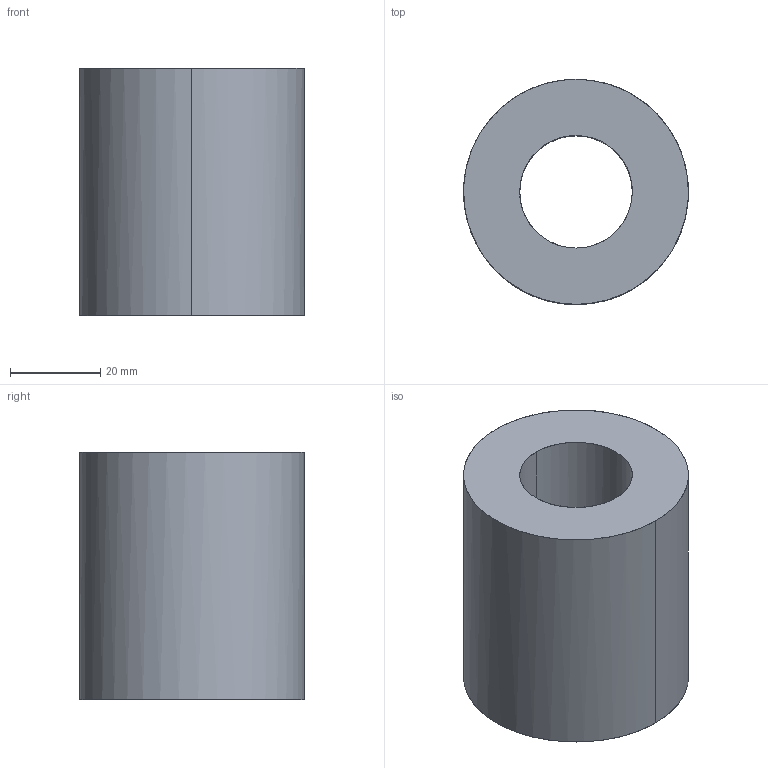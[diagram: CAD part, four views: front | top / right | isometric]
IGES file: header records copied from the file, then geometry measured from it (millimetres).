
Global section: file name: E:\UnigraphicsGraphicData\MISUMI_PRESS-PARTS\IGES\3d_swz50-55_00782_r00.igs; native system: NX V5.0; preprocessor: UGS NX IGES V5.0; author: MISUMI; date: 20110105.163304; units: millimetre
Bounding box: 50 x 50 x 55 mm (x, y, z)
Surface area: 15901.8 mm2 (no closed solid volume)
Topology: 0 solids, 0 shells, 6 faces, 64 edges, 64 vertices
Faces by surface type: bspline 6
